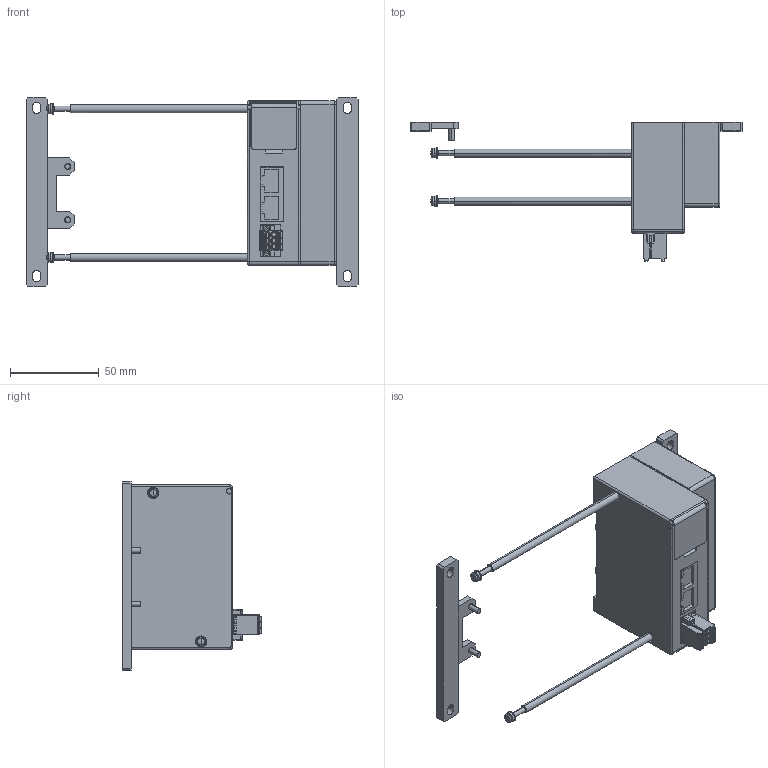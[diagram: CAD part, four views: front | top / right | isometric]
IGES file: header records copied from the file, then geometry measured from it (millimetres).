
Start section: ------------------------------------------------------------------------
Bounding box: 187.5 x 78.8 x 107 mm (x, y, z)
Volume: 272049.7 mm3; surface area: 44335.8 mm2
Topology: 3 solids, 3 shells, 825 faces, 2127 edges, 1359 vertices
Faces by surface type: bspline 825
